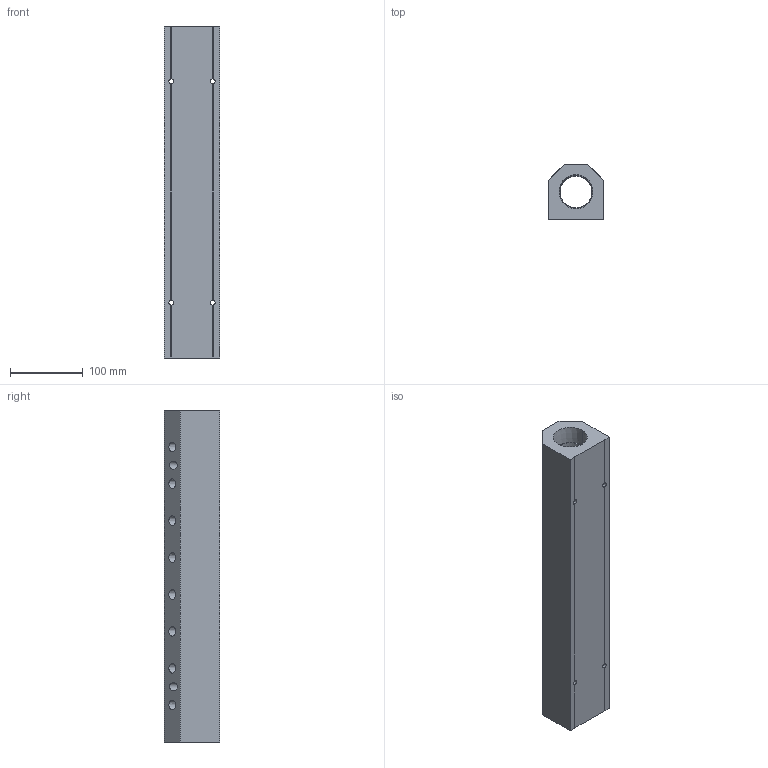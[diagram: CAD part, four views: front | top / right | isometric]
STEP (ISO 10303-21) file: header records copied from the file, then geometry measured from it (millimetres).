
FILE_DESCRIPTION (( 'STEP AP214' ), '1' );
FILE_NAME ('ALM8BD-N4N24-457B.step', '2022-02-07T07:46:31', ( '' ), ( '' ), 'SwSTEP 2.0', 'SolidWorks 2020', '' );
FILE_SCHEMA (( 'AUTOMOTIVE_DESIGN' ));
Length unit declared in the file: millimetre
Products named in the file (1): ALM8BD-N4N24-457B
Bounding box: 76.2 x 76.2 x 457 mm (x, y, z)
Volume: 1670002.5 mm3; surface area: 210426 mm2
Topology: 1 solids, 1 shells, 341 faces, 901 edges, 598 vertices
Faces by surface type: plane 227, bspline 60, cone 36, cylinder 18
Entity records: 18772 total; most frequent: CARTESIAN_POINT 7469, ORIENTED_EDGE 1802, DIRECTION 1365, EDGE_CURVE 901, VECTOR 665, LINE 665, VERTEX_POINT 598, EDGE_LOOP 419
